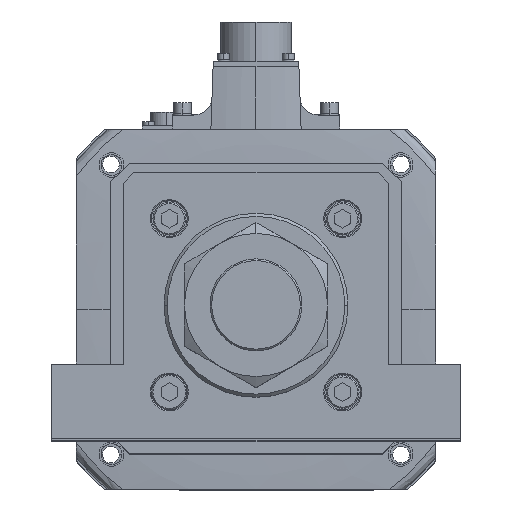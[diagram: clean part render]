
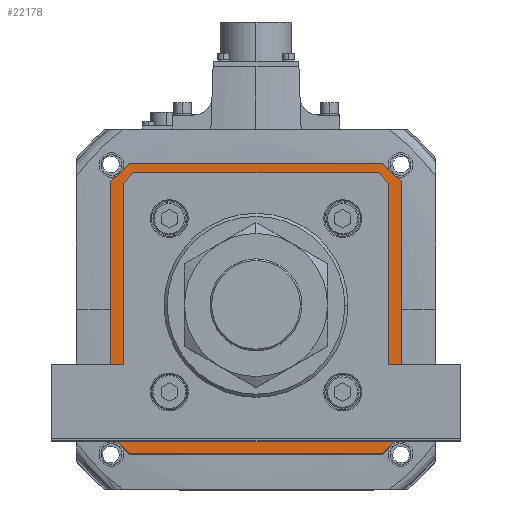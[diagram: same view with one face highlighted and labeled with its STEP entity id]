
A CAD part, top view. The second image highlights one B-rep face of the part: STEP entity #22178.
In plain terms, the highlighted planar face has unit normal (0, 0, 1) as drawn and (0, 0, -1) by its records, which use the part's own axes.
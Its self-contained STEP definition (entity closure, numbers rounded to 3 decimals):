
#52 = EDGE_CURVE ( 'NONE', #2724, #30716, #38510, .T. ) ;
#71 = CARTESIAN_POINT ( 'NONE',  ( 60.896, -60.896, 60. ) ) ;
#424 = VERTEX_POINT ( 'NONE', #24153 ) ;
#599 = VERTEX_POINT ( 'NONE', #39043 ) ;
#607 = EDGE_CURVE ( 'NONE', #424, #6784, #56159, .T. ) ;
#617 = VERTEX_POINT ( 'NONE', #4012 ) ;
#1076 = CARTESIAN_POINT ( 'NONE',  ( -62., 71., 60. ) ) ;
#2406 = ORIENTED_EDGE ( 'NONE', *, *, #44684, .T. ) ;
#2724 = VERTEX_POINT ( 'NONE', #42331 ) ;
#2826 = DIRECTION ( 'NONE',  ( 1., 0., 0. ) ) ;
#3078 = EDGE_CURVE ( 'NONE', #20945, #22775, #38729, .T. ) ;
#3622 = VECTOR ( 'NONE', #27615, 1000. ) ;
#4012 = CARTESIAN_POINT ( 'NONE',  ( -71., -62., 60. ) ) ;
#4185 = CARTESIAN_POINT ( 'NONE',  ( 71., 71., 60. ) ) ;
#4447 = DIRECTION ( 'NONE',  ( 1., 0., 0. ) ) ;
#4997 = EDGE_CURVE ( 'NONE', #424, #22775, #12598, .T. ) ;
#5073 = EDGE_CURVE ( 'NONE', #50038, #7601, #56213, .T. ) ;
#5826 = FACE_OUTER_BOUND ( 'NONE', #12952, .T. ) ;
#6784 = VERTEX_POINT ( 'NONE', #53747 ) ;
#6878 = CARTESIAN_POINT ( 'NONE',  ( -71., 71., 60. ) ) ;
#7063 = ORIENTED_EDGE ( 'NONE', *, *, #14675, .T. ) ;
#7270 = CARTESIAN_POINT ( 'NONE',  ( -60.896, 60.896, 60. ) ) ;
#7564 = CARTESIAN_POINT ( 'NONE',  ( 62., 71., 60. ) ) ;
#7601 = VERTEX_POINT ( 'NONE', #40777 ) ;
#8007 = VERTEX_POINT ( 'NONE', #13322 ) ;
#8459 = DIRECTION ( 'NONE',  ( -0.707, 0.707, 0. ) ) ;
#8646 = CARTESIAN_POINT ( 'NONE',  ( 58.793, 63., 60. ) ) ;
#9087 = ORIENTED_EDGE ( 'NONE', *, *, #5073, .T. ) ;
#9582 = VECTOR ( 'NONE', #2826, 1000. ) ;
#9719 = EDGE_CURVE ( 'NONE', #599, #29785, #21913, .T. ) ;
#10048 = EDGE_LOOP ( 'NONE', ( #44041, #11044, #48968, #2406, #39435, #31365, #7063, #9087 ) ) ;
#10832 = VECTOR ( 'NONE', #55061, 1000. ) ;
#10913 = CARTESIAN_POINT ( 'NONE',  ( 63., -58.793, 60. ) ) ;
#11044 = ORIENTED_EDGE ( 'NONE', *, *, #9719, .T. ) ;
#11635 = LINE ( 'NONE', #29218, #9582 ) ;
#12598 = LINE ( 'NONE', #4185, #20046 ) ;
#12952 = EDGE_LOOP ( 'NONE', ( #35136, #35258, #23036, #13017, #56077, #38305, #39335, #23824 ) ) ;
#12971 = VERTEX_POINT ( 'NONE', #10913 ) ;
#13017 = ORIENTED_EDGE ( 'NONE', *, *, #52, .T. ) ;
#13112 = EDGE_CURVE ( 'NONE', #7601, #599, #42169, .T. ) ;
#13322 = CARTESIAN_POINT ( 'NONE',  ( -62., -71., 60. ) ) ;
#13632 = DIRECTION ( 'NONE',  ( 0., 0., 1. ) ) ;
#14324 = AXIS2_PLACEMENT_3D ( 'NONE', #22166, #13632, #4447 ) ;
#14675 = EDGE_CURVE ( 'NONE', #53464, #50038, #17195, .T. ) ;
#15529 = CARTESIAN_POINT ( 'NONE',  ( 58.793, -63., 60. ) ) ;
#17195 = LINE ( 'NONE', #30324, #54686 ) ;
#17302 = CARTESIAN_POINT ( 'NONE',  ( 71., -62., 60. ) ) ;
#17320 = LINE ( 'NONE', #50979, #39150 ) ;
#18651 = VECTOR ( 'NONE', #47205, 1000. ) ;
#20046 = VECTOR ( 'NONE', #34285, 1000. ) ;
#20929 = CARTESIAN_POINT ( 'NONE',  ( -71., 71., 60. ) ) ;
#20945 = VERTEX_POINT ( 'NONE', #7564 ) ;
#21029 = PLANE ( 'NONE',  #14324 ) ;
#21074 = LINE ( 'NONE', #71, #46995 ) ;
#21191 = CARTESIAN_POINT ( 'NONE',  ( 71., 62., 60. ) ) ;
#21913 = LINE ( 'NONE', #49540, #32907 ) ;
#22166 = CARTESIAN_POINT ( 'NONE',  ( 0., 0., 60. ) ) ;
#22178 = ADVANCED_FACE ( 'NONE', ( #24869, #5826 ), #21029, .F. ) ;
#22752 = CARTESIAN_POINT ( 'NONE',  ( -59., 63., 60. ) ) ;
#22775 = VERTEX_POINT ( 'NONE', #21191 ) ;
#23036 = ORIENTED_EDGE ( 'NONE', *, *, #27164, .F. ) ;
#23824 = ORIENTED_EDGE ( 'NONE', *, *, #607, .T. ) ;
#24153 = CARTESIAN_POINT ( 'NONE',  ( 71., -62., 60. ) ) ;
#24869 = FACE_BOUND ( 'NONE', #10048, .T. ) ;
#25212 = EDGE_CURVE ( 'NONE', #8007, #6784, #39701, .T. ) ;
#26099 = DIRECTION ( 'NONE',  ( 0.707, 0.707, 0. ) ) ;
#27164 = EDGE_CURVE ( 'NONE', #2724, #617, #41067, .T. ) ;
#27615 = DIRECTION ( 'NONE',  ( 0., 1., 0. ) ) ;
#27909 = CARTESIAN_POINT ( 'NONE',  ( -58.793, -63., 60. ) ) ;
#27995 = VECTOR ( 'NONE', #28776, 1000. ) ;
#28776 = DIRECTION ( 'NONE',  ( 1., 0., 0. ) ) ;
#29218 = CARTESIAN_POINT ( 'NONE',  ( 59., -63., 60. ) ) ;
#29384 = EDGE_CURVE ( 'NONE', #20945, #30716, #51763, .T. ) ;
#29785 = VERTEX_POINT ( 'NONE', #50058 ) ;
#30324 = CARTESIAN_POINT ( 'NONE',  ( 60.896, 60.896, 60. ) ) ;
#30711 = CARTESIAN_POINT ( 'NONE',  ( 63., 59., 60. ) ) ;
#30716 = VERTEX_POINT ( 'NONE', #1076 ) ;
#31365 = ORIENTED_EDGE ( 'NONE', *, *, #54857, .T. ) ;
#32907 = VECTOR ( 'NONE', #44800, 1000. ) ;
#33086 = CARTESIAN_POINT ( 'NONE',  ( 63., 58.793, 60. ) ) ;
#33129 = DIRECTION ( 'NONE',  ( -0.707, 0.707, 0. ) ) ;
#33209 = CARTESIAN_POINT ( 'NONE',  ( -71., -71., 60. ) ) ;
#33580 = DIRECTION ( 'NONE',  ( -1., 0., 0. ) ) ;
#34285 = DIRECTION ( 'NONE',  ( 0., 1., 0. ) ) ;
#35136 = ORIENTED_EDGE ( 'NONE', *, *, #25212, .F. ) ;
#35258 = ORIENTED_EDGE ( 'NONE', *, *, #49251, .T. ) ;
#36593 = DIRECTION ( 'NONE',  ( 0., -1., 0. ) ) ;
#36752 = DIRECTION ( 'NONE',  ( 0.707, -0.707, 0. ) ) ;
#37350 = VECTOR ( 'NONE', #36752, 1000. ) ;
#38220 = VERTEX_POINT ( 'NONE', #15529 ) ;
#38305 = ORIENTED_EDGE ( 'NONE', *, *, #3078, .T. ) ;
#38510 = LINE ( 'NONE', #54539, #51433 ) ;
#38729 = LINE ( 'NONE', #54655, #37350 ) ;
#39043 = CARTESIAN_POINT ( 'NONE',  ( -63., 58.793, 60. ) ) ;
#39150 = VECTOR ( 'NONE', #33129, 1000. ) ;
#39335 = ORIENTED_EDGE ( 'NONE', *, *, #4997, .F. ) ;
#39435 = ORIENTED_EDGE ( 'NONE', *, *, #41942, .T. ) ;
#39701 = LINE ( 'NONE', #33209, #27995 ) ;
#40203 = VECTOR ( 'NONE', #33580, 1000. ) ;
#40777 = CARTESIAN_POINT ( 'NONE',  ( -58.793, 63., 60. ) ) ;
#41067 = LINE ( 'NONE', #6878, #43812 ) ;
#41942 = EDGE_CURVE ( 'NONE', #38220, #12971, #21074, .T. ) ;
#42169 = LINE ( 'NONE', #7270, #10832 ) ;
#42331 = CARTESIAN_POINT ( 'NONE',  ( -71., 62., 60. ) ) ;
#42803 = VERTEX_POINT ( 'NONE', #27909 ) ;
#43073 = VECTOR ( 'NONE', #53843, 1000. ) ;
#43812 = VECTOR ( 'NONE', #36593, 1000. ) ;
#44041 = ORIENTED_EDGE ( 'NONE', *, *, #13112, .T. ) ;
#44431 = LINE ( 'NONE', #50023, #43073 ) ;
#44615 = VECTOR ( 'NONE', #53264, 1000. ) ;
#44684 = EDGE_CURVE ( 'NONE', #42803, #38220, #11635, .T. ) ;
#44800 = DIRECTION ( 'NONE',  ( 0., -1., 0. ) ) ;
#46995 = VECTOR ( 'NONE', #26099, 1000. ) ;
#47205 = DIRECTION ( 'NONE',  ( -0.707, -0.707, 0. ) ) ;
#48968 = ORIENTED_EDGE ( 'NONE', *, *, #50920, .T. ) ;
#49251 = EDGE_CURVE ( 'NONE', #8007, #617, #17320, .T. ) ;
#49540 = CARTESIAN_POINT ( 'NONE',  ( -63., -59., 60. ) ) ;
#50023 = CARTESIAN_POINT ( 'NONE',  ( -60.896, -60.896, 60. ) ) ;
#50038 = VERTEX_POINT ( 'NONE', #8646 ) ;
#50058 = CARTESIAN_POINT ( 'NONE',  ( -63., -58.793, 60. ) ) ;
#50708 = DIRECTION ( 'NONE',  ( 0.707, 0.707, 0. ) ) ;
#50920 = EDGE_CURVE ( 'NONE', #29785, #42803, #44431, .T. ) ;
#50979 = CARTESIAN_POINT ( 'NONE',  ( -62., -71., 60. ) ) ;
#51297 = LINE ( 'NONE', #30711, #3622 ) ;
#51433 = VECTOR ( 'NONE', #50708, 1000. ) ;
#51763 = LINE ( 'NONE', #20929, #40203 ) ;
#53264 = DIRECTION ( 'NONE',  ( -1., 0., 0. ) ) ;
#53464 = VERTEX_POINT ( 'NONE', #33086 ) ;
#53747 = CARTESIAN_POINT ( 'NONE',  ( 62., -71., 60. ) ) ;
#53843 = DIRECTION ( 'NONE',  ( 0.707, -0.707, 0. ) ) ;
#54539 = CARTESIAN_POINT ( 'NONE',  ( -71., 62., 60. ) ) ;
#54655 = CARTESIAN_POINT ( 'NONE',  ( 62., 71., 60. ) ) ;
#54686 = VECTOR ( 'NONE', #8459, 1000. ) ;
#54857 = EDGE_CURVE ( 'NONE', #12971, #53464, #51297, .T. ) ;
#55061 = DIRECTION ( 'NONE',  ( -0.707, -0.707, 0. ) ) ;
#56077 = ORIENTED_EDGE ( 'NONE', *, *, #29384, .F. ) ;
#56159 = LINE ( 'NONE', #17302, #18651 ) ;
#56213 = LINE ( 'NONE', #22752, #44615 ) ;
